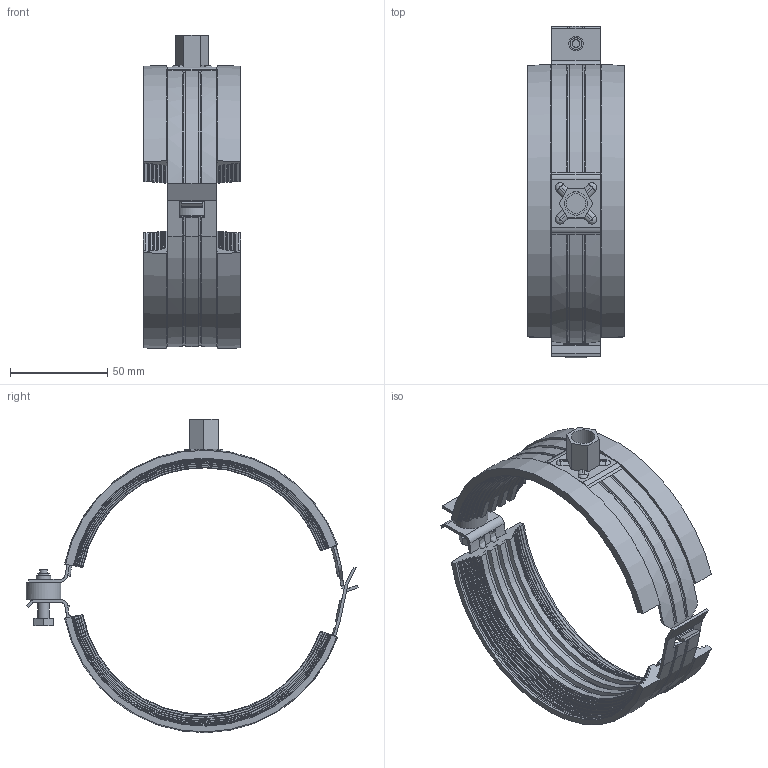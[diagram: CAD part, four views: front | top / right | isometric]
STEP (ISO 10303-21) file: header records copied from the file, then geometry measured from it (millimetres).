
FILE_DESCRIPTION(/* description */ (''),/* implementation_level */ '2;1');
FILE_NAME(/* name */ 'H:\Geberit-Teile\Export\Rohrschelle Si\stp\393699.stp',/* time_stamp */ '2017-02-14T11:12:13+01:00',/* author */ ('seihe2'),/* organization */ (''),/* preprocessor_version */ 'ST-DEVELOPER v15.2',/* originating_system */ 'Autodesk Inventor 2014',/* authorisation */ '');
FILE_SCHEMA (('AUTOMOTIVE_DESIGN { 1 0 10303 214 3 1 1 }'));
Length unit declared in the file: millimetre
Products named in the file (1): 393699
Bounding box: 50 x 171.1 x 161.49 mm (x, y, z)
Volume: 122036.1 mm3; surface area: 69731.8 mm2
Topology: 1 solids, 1 shells, 342 faces, 978 edges, 628 vertices
Faces by surface type: plane 98, cylinder 92, cone 84, torus 50, bspline 18
Full cylindrical faces by diameter (mm): 4 x1, 6 x2, 7.5 x1, 10 x1, 12 x1, 18.16 x1
Entity records: 11828 total; most frequent: CARTESIAN_POINT 2224, DIRECTION 2049, ORIENTED_EDGE 1948, EDGE_CURVE 971, AXIS2_PLACEMENT_3D 771, VERTEX_POINT 626, LINE 507, VECTOR 507
